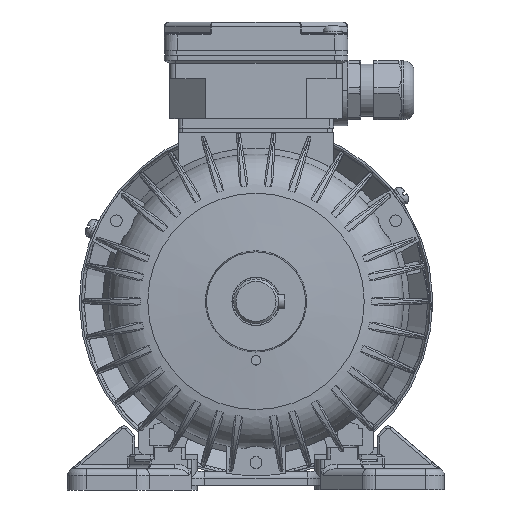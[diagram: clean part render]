
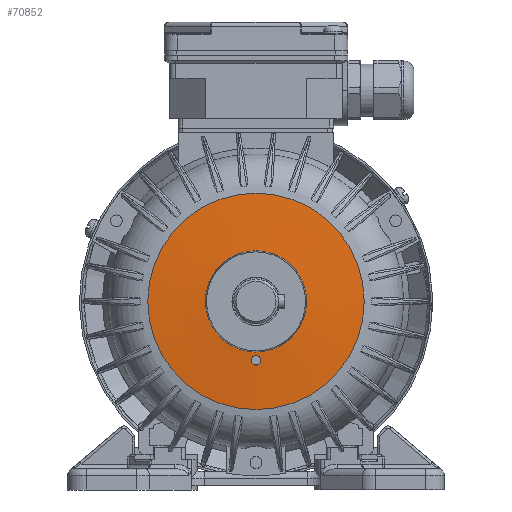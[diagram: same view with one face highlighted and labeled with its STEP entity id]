
A CAD part, left-side view. The second image highlights one B-rep face of the part: STEP entity #70852.
In plain terms, the highlighted conical face has half-angle 85.5 degrees and reference radius 21.472 mm.
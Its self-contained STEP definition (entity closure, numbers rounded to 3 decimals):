
#537=CONICAL_SURFACE('',#75000,21.472,1.492);
#1020=B_SPLINE_CURVE_WITH_KNOTS('',3,(#100842,#100843,#100844,#100845,#100846,
#100847,#100848,#100849,#100850,#100851,#100852),.UNSPECIFIED.,.T.,.F.,
(1,1,1,1,1,1,1,1,1,1,1,1,1,1,1),(-0.005,-0.003,
-0.002,0.,0.002,0.003,
0.005,0.006,0.008,0.009,
0.011,0.013,0.014,0.016,
0.017),.UNSPECIFIED.);
#18399=ORIENTED_EDGE('',*,*,#30520,.F.);
#18400=ORIENTED_EDGE('',*,*,#30644,.T.);
#18401=ORIENTED_EDGE('',*,*,#30519,.T.);
#30519=EDGE_CURVE('',#37209,#37209,#1020,.T.);
#30520=EDGE_CURVE('',#37210,#37210,#41111,.T.);
#30644=EDGE_CURVE('',#37332,#37332,#41187,.T.);
#37209=VERTEX_POINT('',#100853);
#37210=VERTEX_POINT('',#100856);
#37332=VERTEX_POINT('',#101130);
#41111=CIRCLE('',#74897,21.472);
#41187=CIRCLE('',#75001,45.912);
#43806=EDGE_LOOP('',(#18399));
#43807=EDGE_LOOP('',(#18400));
#43808=EDGE_LOOP('',(#18401));
#47200=FACE_BOUND('',#43806,.T.);
#47201=FACE_BOUND('',#43807,.T.);
#47202=FACE_BOUND('',#43808,.T.);
#70852=ADVANCED_FACE('',(#47200,#47201,#47202),#537,.T.);
#74897=AXIS2_PLACEMENT_3D('',#100855,#84635,#84636);
#75000=AXIS2_PLACEMENT_3D('',#101128,#84889,#84890);
#75001=AXIS2_PLACEMENT_3D('',#101129,#84891,#84892);
#84635=DIRECTION('',(-1.,0.,0.));
#84636=DIRECTION('',(0.,0.,-1.));
#84889=DIRECTION('',(1.,0.,0.));
#84890=DIRECTION('',(0.,0.,1.));
#84891=DIRECTION('',(-1.,0.,0.));
#84892=DIRECTION('',(0.,0.,-1.));
#100842=CARTESIAN_POINT('',(-34.549,-0.01,-27.218));
#100843=CARTESIAN_POINT('',(-34.596,1.564,-26.571));
#100844=CARTESIAN_POINT('',(-34.714,2.215,-25.007));
#100845=CARTESIAN_POINT('',(-34.841,1.576,-23.442));
#100846=CARTESIAN_POINT('',(-34.899,0.01,-22.782));
#100847=CARTESIAN_POINT('',(-34.843,-1.563,-23.429));
#100848=CARTESIAN_POINT('',(-34.715,-2.215,-24.989));
#100849=CARTESIAN_POINT('',(-34.597,-1.577,-26.558));
#100850=CARTESIAN_POINT('',(-34.549,-0.01,-27.218));
#100851=CARTESIAN_POINT('',(-34.596,1.564,-26.571));
#100852=CARTESIAN_POINT('',(-34.714,2.215,-25.007));
#100853=CARTESIAN_POINT('',(-34.608,1.41,-26.418));
#100855=CARTESIAN_POINT('',(-35.,0.,0.));
#100856=CARTESIAN_POINT('',(-35.,0.,-21.472));
#101128=CARTESIAN_POINT('',(-35.,0.,0.));
#101129=CARTESIAN_POINT('',(-33.077,0.,0.));
#101130=CARTESIAN_POINT('',(-33.077,0.,-45.912));
